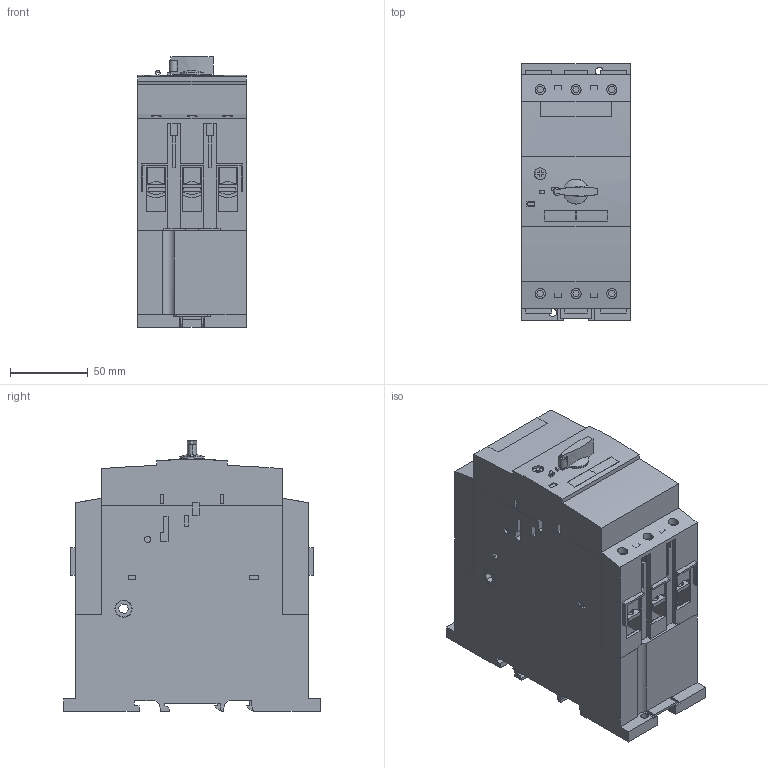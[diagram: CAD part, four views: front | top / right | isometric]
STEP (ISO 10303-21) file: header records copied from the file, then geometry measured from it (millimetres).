
FILE_DESCRIPTION (( 'STEP AP214' ), '1' );
FILE_NAME ('OMRON-J7MN_100_63.step', '2010-05-17T11:01:47', ( 'sysAdmin' ), ( 'SolidWorks' ), 'SwSTEP 2.0', 'SolidWorks 2010', '' );
FILE_SCHEMA (( 'AUTOMOTIVE_DESIGN' ));
Length unit declared in the file: millimetre
Products named in the file (8): OMRON-J7MN_100_63_J7MN_100_63_SLIDER; OMRON-J7MN_100_63_J7MN_100_63_COVER; OMRON-J7MN_100_63_J7MN_100_63_SWITCH; OMRON-J7MN_100_63_J7MN_100_63_SWITCH_LOCK; OMRON-J7MN_100_63_J7MN_100_63_TERMINAL; OMRON-J7MN_100_63_J7MN_100_63_BASE; OMRON-J7MN_100_63
Assembly tree (8 placements, depth 3):
  OMRON-J7MN_100_63
    OMRON-J7MN_100_63_J7MN_100_63_TERMINAL  x2
    OMRON-J7MN_100_63_J7MN_100_63_COVER
    OMRON-J7MN_100_63_J7MN_100_63_BASE
    OMRON-J7MN_100_63_J7MN_100_63_SWITCH
      OMRON-J7MN_100_63_J7MN_100_63_SWITCH
      OMRON-J7MN_100_63_J7MN_100_63_SWITCH_LOCK
    OMRON-J7MN_100_63_J7MN_100_63_SLIDER
Bounding box: 70 x 165 x 174 mm (x, y, z)
Volume: 1513312.3 mm3; surface area: 165026.1 mm2
Topology: 7 solids, 7 shells, 954 faces, 2685 edges, 1764 vertices
Faces by surface type: plane 854, cylinder 98, torus 2
Entity records: 26561 total; most frequent: CARTESIAN_POINT 4451, ORIENTED_EDGE 4200, DIRECTION 3781, EDGE_CURVE 2100, VECTOR 1913, LINE 1913, VERTEX_POINT 1382, AXIS2_PLACEMENT_3D 934
